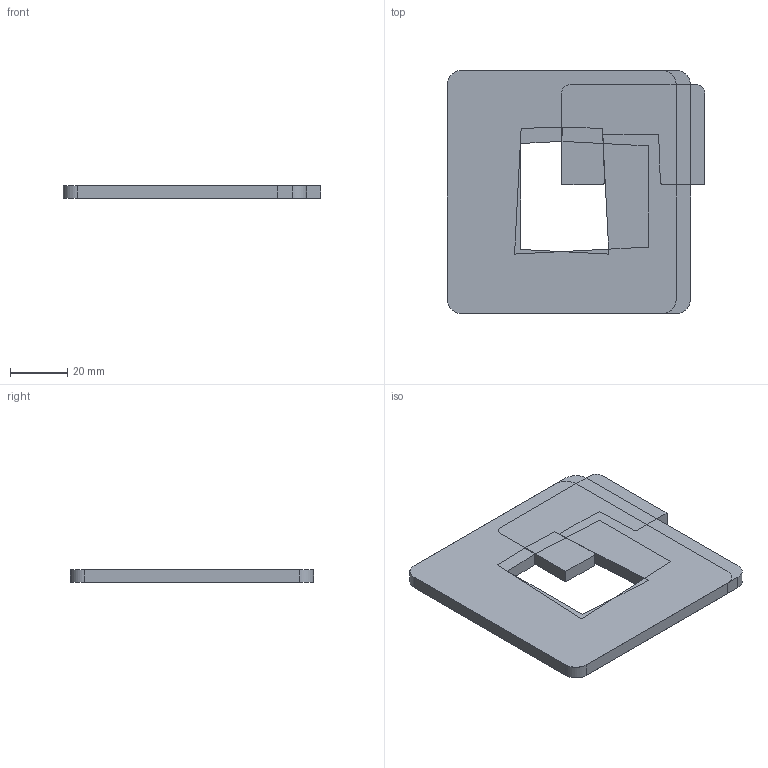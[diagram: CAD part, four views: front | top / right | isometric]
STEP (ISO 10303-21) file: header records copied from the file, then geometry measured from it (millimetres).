
FILE_DESCRIPTION(('STEP AP214'),'1');
FILE_NAME('(2023-7-20).stp','2023-07-19T23:50:17',(' '),(' '),'Spatial InterOp 3D',' ',' ');
FILE_SCHEMA(('AUTOMOTIVE_DESIGN { 1 0 10303 214 1 1 1 1 }'));
Length unit declared in the file: metre
Products named in the file (4): 1689810652; 1689810589; 1689810526; 1
Bounding box: 90.03 x 85 x 4.5 mm (x, y, z)
Surface area: 30073.1 mm2
Topology: 3 solids, 3 shells, 49 faces, 135 edges, 98 vertices
Faces by surface type: plane 37, cylinder 12
Entity records: 2100 total; most frequent: CARTESIAN_POINT 274, DIRECTION 265, ORIENTED_EDGE 258, EDGE_CURVE 129, LINE 111, VECTOR 111, VERTEX_POINT 86, AXIS2_PLACEMENT_3D 77
